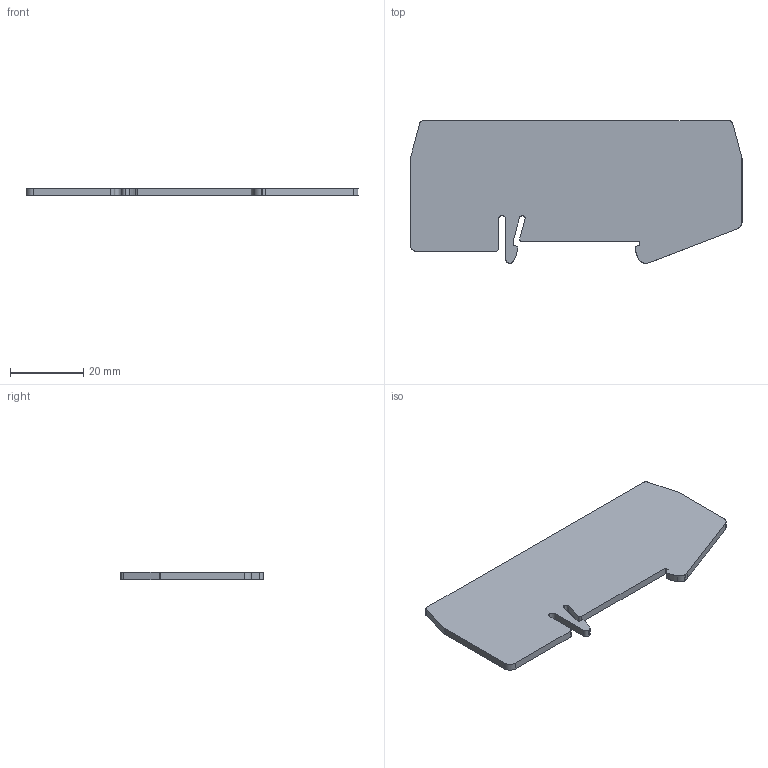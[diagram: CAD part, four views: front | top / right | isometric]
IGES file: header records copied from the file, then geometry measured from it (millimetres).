
Global section: file name: 3030815_atp_st_quattro_select.igs; native system: OneSpace Designer 3D IGES; preprocessor: 12.01C  26-Mar-2004; date: 20041001.133034; units: millimetre
Bounding box: 90.9 x 39 x 2 mm (x, y, z)
Surface area: 6724 mm2 (no closed solid volume)
Topology: 0 solids, 0 shells, 41 faces, 352 edges, 352 vertices
Faces by surface type: bspline 41
